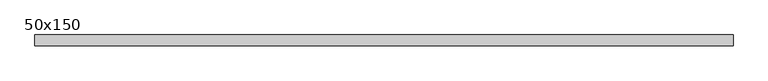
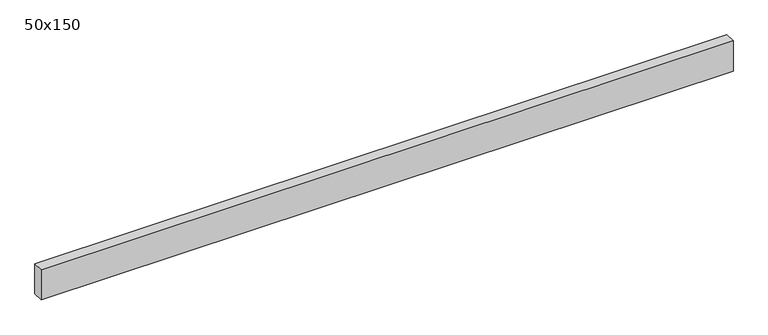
"""IFC4 building model written with IfcOpenShell, lengths in millimetres: beam geometry, Graded Timber : 50x150."""

from ifc_helpers import new_model, si_unit, frame, origin, place, context, project, spatial, polyline, outline, extrude, source, transform, mapped, element, save


def beam_50x150_9a80bcea(model_context):
    return source(origin(), model_context, "Body", "SweptSolid", [
        extrude(outline(polyline([(1633.5, 25.0), (1633.5, -25.0), (-1633.5, -25.0), (-1633.5, 25.0), (1633.5, 25.0)])), frame((0.0, 0.0, -75.0), z_axis=(0.0, 0.0, 1.0), x_axis=(1.0, 0.0, 0.0)), (0.0, 0.0, 1.0), 150.0),
    ])


if __name__ == "__main__":
    model = new_model("IFC4")
    model_context = context("Model", 3, world=origin())
    ifc_project = project(units=[si_unit("LENGTHUNIT", "METRE", prefix="MILLI")], contexts=[model_context])
    site = spatial("IfcSite", under=ifc_project)
    building = spatial("IfcBuilding", under=site)
    placement = place(None, origin())
    beam_50x150_shape = beam_50x150_9a80bcea(model_context)
    element("IfcBeam", 1, ObjectType="Graded Timber : 50x150", at=placement, inside=building, context=model_context, shape_type="MappedRepresentation", body=[
        mapped(beam_50x150_shape, transform((0.0, 0.0, 0.0), x_axis=(1.0, 0.0, 0.0), y_axis=(0.0, 1.0, 0.0), z_axis=(0.0, 0.0, 1.0))),
    ])
    save(model, "model.ifc")
